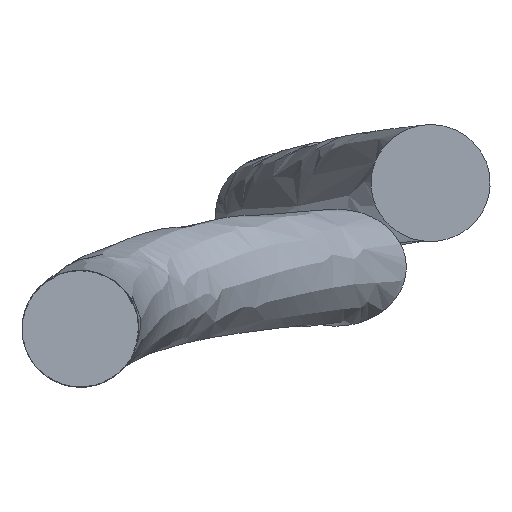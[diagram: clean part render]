
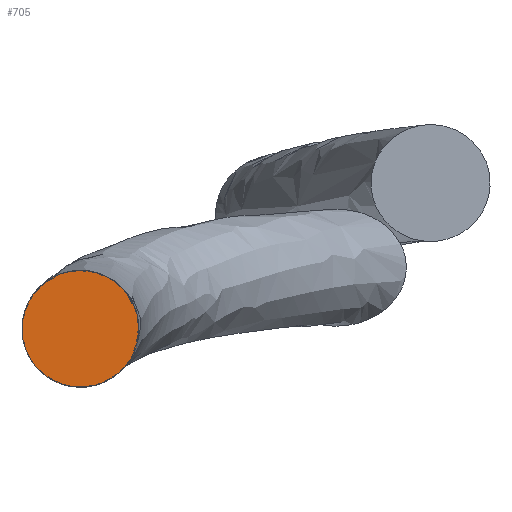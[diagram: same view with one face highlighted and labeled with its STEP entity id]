
A CAD part, top view. The second image highlights one B-rep face of the part: STEP entity #705.
In plain terms, the highlighted planar face has unit normal (0, 0, 1).
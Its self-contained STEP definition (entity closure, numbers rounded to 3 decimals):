
#29 = FACE_OUTER_BOUND ( 'NONE', #1101, .T. ) ;
#50 = EDGE_CURVE ( 'NONE', #586, #586, #803, .T. ) ;
#121 = CARTESIAN_POINT ( 'NONE',  ( 305.465, -7.81, 2220. ) ) ;
#130 = DIRECTION ( 'NONE',  ( 0., 0., 1. ) ) ;
#210 = ORIENTED_EDGE ( 'NONE', *, *, #50, .F. ) ;
#308 = DIRECTION ( 'NONE',  ( 0., -1., 0. ) ) ;
#405 = CARTESIAN_POINT ( 'NONE',  ( 0., 0., 2220. ) ) ;
#447 = CARTESIAN_POINT ( 'NONE',  ( 318.915, 36.879, 2220. ) ) ;
#586 = VERTEX_POINT ( 'NONE', #121 ) ;
#705 = ADVANCED_FACE ( 'NONE', ( #29 ), #893, .T. ) ;
#724 = CARTESIAN_POINT ( 'NONE',  ( 305.465, -7.81, 2220. ) ) ;
#803 =( BOUNDED_CURVE ( )  B_SPLINE_CURVE ( 3, ( #1196, #1025, #447, #816, #938, #1118, #724 ),
 .UNSPECIFIED., .T., .F. ) 
 B_SPLINE_CURVE_WITH_KNOTS ( ( 4, 3, 4 ),
 ( 0., 0.052, 0.103 ),
 .UNSPECIFIED. ) 
 CURVE ( )  GEOMETRIC_REPRESENTATION_ITEM ( )  RATIONAL_B_SPLINE_CURVE ( ( 0.997, 0.332, 0.332, 0.997, 0.332, 0.332, 0.997 ) ) 
 REPRESENTATION_ITEM ( '' )  );
#816 = CARTESIAN_POINT ( 'NONE',  ( 334.535, 7.81, 2220. ) ) ;
#893 = PLANE ( 'NONE',  #1082 ) ;
#938 = CARTESIAN_POINT ( 'NONE',  ( 350.154, -21.26, 2220. ) ) ;
#1025 = CARTESIAN_POINT ( 'NONE',  ( 289.846, 21.26, 2220. ) ) ;
#1082 = AXIS2_PLACEMENT_3D ( 'NONE', #405, #130, #308 ) ;
#1101 = EDGE_LOOP ( 'NONE', ( #210 ) ) ;
#1118 = CARTESIAN_POINT ( 'NONE',  ( 321.085, -36.879, 2220. ) ) ;
#1196 = CARTESIAN_POINT ( 'NONE',  ( 305.465, -7.81, 2220. ) ) ;
